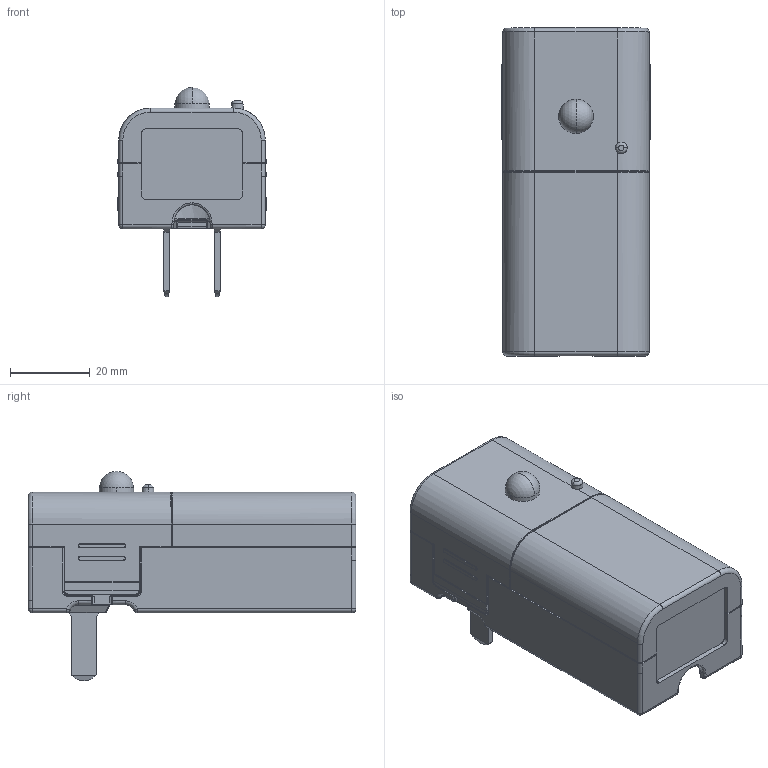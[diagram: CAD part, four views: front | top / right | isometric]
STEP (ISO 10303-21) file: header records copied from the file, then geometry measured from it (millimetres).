
FILE_DESCRIPTION (( 'STEP AP203' ), '1' );
FILE_NAME ('KD-L2115PJK 単品仕様 _defeature.STEP', '2023-07-07T07:26:13', ( '' ), ( '' ), 'SwSTEP 2.0', 'SolidWorks 2022', '' );
FILE_SCHEMA (( 'CONFIG_CONTROL_DESIGN' ));
Length unit declared in the file: millimetre
Products named in the file (1): KD-L2115PJK 単品仕様 _defeature
Bounding box: 37.28 x 82.15 x 52.45 mm (x, y, z)
Volume: 68616.6 mm3; surface area: 16251 mm2
Topology: 1 solids, 1 shells, 703 faces, 1710 edges, 1002 vertices
Faces by surface type: cylinder 271, plane 185, bspline 133, sphere 52, torus 45, cone 17
Entity records: 23171 total; most frequent: CARTESIAN_POINT 7906, ORIENTED_EDGE 3392, DIRECTION 3017, EDGE_CURVE 1696, AXIS2_PLACEMENT_3D 1117, VERTEX_POINT 1002, LINE 783, VECTOR 783
